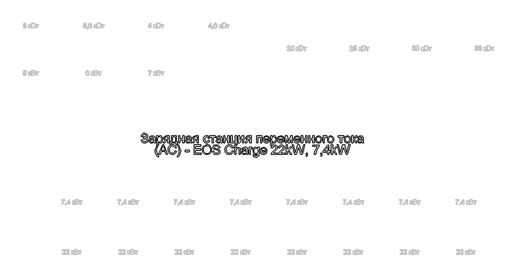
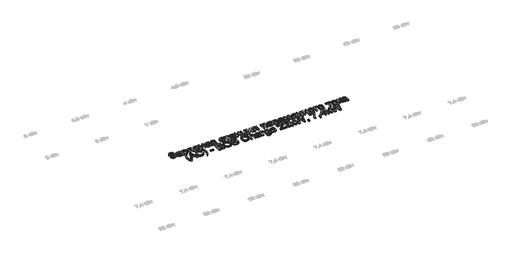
# One storey, part 3 of 26: 1 proxy.
"""IFC4 building model written with IfcOpenShell, lengths in millimetres."""

from ifc_helpers import new_model, si_unit, origin, origin_with_axes, place, context, project, spatial, polyline, outline, extrude, element, save

model = new_model("IFC4")

# Units and contexts
model_context = context("Model", 3, world=origin())
ifc_project = project(units=[si_unit("LENGTHUNIT", "METRE", prefix="MILLI")], contexts=[model_context])

# Site, building, storey
site = spatial("IfcSite", under=ifc_project)
building = spatial("IfcBuilding", under=site)
storey = spatial("IfcBuildingStorey", under=building, Name="Этаж 01", Elevation=0.0)

# Proxy
placement = place(None, origin())
element("IfcBuildingElementProxy", 1, Name="150 мм Arial", ObjectType="150 мм Arial", at=placement, inside=storey, context=model_context, shape_type="SweptSolid", body=[
    extrude(outline(polyline([(2748.1193826, -21088.8906652), (2766.9549407, -21084.1817757), (2778.5248295, -21104.5808323), (2789.4555233, -21112.2373764), (2803.4488347, -21114.7895577), (2817.626087, -21112.8719728), (2828.4464162, -21107.1192181), (2835.3028169, -21098.6533337), (2837.5882838, -21088.5963596), (2835.0912848, -21078.061139), (2827.6002876, -21069.9263484), (2815.8050712, -21064.7254167), (2800.3954141, -21062.9917728), (2790.4993884, -21062.9917728), (2790.4993884, -21044.1562146), (2811.81815, -21042.6295043), (2824.8595668, -21034.830406), (2830.5249495, -21020.5749787), (2828.6395543, -21011.7044241), (2822.9833686, -21004.0754712), (2814.1082155, -20998.8193572), (2802.5659179, -20997.0673192), (2783.3440836, -21002.4567905), (2772.344412, -21016.749006), (2769.3093855, -21030.029546), (2750.4738273, -21025.3206565), (2756.3254503, -21004.7192647), (2766.9273496, -20990.0039849), (2782.2795251, -20981.174817), (2802.3819769, -20978.2317611), (2821.7739565, -20981.2897802), (2836.6869729, -20990.4638374), (2846.192124, -21003.7305819), (2849.3605076, -21019.0666626), (2844.4308889, -21037.7090827), (2829.6420327, -21051.6242191), (2840.1174725, -21056.4480718), (2848.7351083, -21064.5920595), (2854.5016585, -21075.3572063), (2856.423842, -21088.0445366), (2852.735825, -21105.8822149), (2841.6717739, -21120.5469109), (2824.5192759, -21130.3555646), (2802.5659179, -21133.6251159), (2783.4636453, -21130.8292127), (2768.0217985, -21122.4415032), (2756.2403776, -21108.4619874), (2748.1193826, -21088.8906652)])), origin_with_axes(), (0.0, 0.0, 1.0), 20.0),
    extrude(outline(polyline([(2950.6016327, -21117.1440025), (2932.3362917, -21129.9095077), (2912.1579642, -21133.6251159), (2896.4172134, -21131.3902327), (2884.8059379, -21124.6855834), (2877.6460346, -21114.5044492), (2875.2594001, -21101.8401115), (2878.8646437, -21086.9408907), (2888.337605, -21076.12516), (2901.5261746, -21069.9447425), (2917.823347, -21067.1120511), (2950.4912681, -21060.637328), (2950.6016327, -21056.4434733), (2949.3048487, -21048.0373697), (2945.4144966, -21042.5375338), (2936.7140874, -21038.4540437), (2924.5923757, -21037.0928803), (2905.5360883, -21040.716518), (2896.449403, -21053.5739937), (2877.6138449, -21051.2195489), (2885.7624311, -21032.8254492), (2902.1699681, -21022.0465067), (2927.0203968, -21018.2573222), (2949.8474746, -21021.6050483), (2962.7417386, -21030.0111519), (2968.5174859, -21042.7950512), (2969.4371909, -21059.2761646), (2969.4371909, -21082.7102477), (2970.3936841, -21115.4333512), (2974.1460804, -21131.2706711), (2955.3105223, -21131.2706711), (2950.6016327, -21117.1440025)]), holes=[polyline([(2950.6016327, -21079.4728862), (2920.2145799, -21085.2486335), (2904.009378, -21088.302054), (2896.6701322, -21093.268461), (2894.0949583, -21100.5157363), (2899.7051587, -21110.7060676), (2916.167878, -21114.7895577), (2935.2241653, -21110.2830033), (2947.511424, -21099.3753021), (2950.4912681, -21084.8071751), (2950.6016327, -21079.4728862)])]), origin_with_axes(), (0.0, 0.0, 1.0), 20.0),
    extrude(outline(polyline([(2995.3360833, -21173.6506769), (2995.3360833, -21020.6117669), (3014.1716415, -21020.6117669), (3014.1716415, -21039.0794431), (3027.1946641, -21023.4628524), (3044.7794235, -21018.2573222), (3057.5173376, -21020.078338), (3068.654965, -21025.5413857), (3077.7232562, -21034.3153713), (3084.2531616, -21046.069201), (3089.5138741, -21075.0950904), (3088.0285505, -21091.2037233), (3083.5725799, -21105.6109019), (3076.2885164, -21117.5854609), (3066.3189143, -21126.3962346), (3054.7076388, -21131.8178955), (3042.4985551, -21133.6251159), (3026.1094122, -21128.7874676), (3014.1716415, -21116.5553913), (3014.1716415, -21173.6506769), (2995.3360833, -21173.6506769)]), holes=[polyline([(3014.1716415, -21076.8241358), (3016.208788, -21093.7099194), (3022.3202277, -21105.5189314), (3031.3379351, -21112.4719011), (3042.0938849, -21114.7895577), (3053.0245787, -21112.3891277), (3062.2722124, -21105.1878376), (3068.5767901, -21092.9465642), (3070.6783159, -21075.4261842), (3068.6273738, -21058.6323711), (3062.4745475, -21046.6578122), (3053.4706356, -21039.4841133), (3042.8664371, -21037.0928803), (3032.2208519, -21039.6358646), (3022.8720507, -21047.2648175), (3016.3467438, -21059.7406156), (3014.1716415, -21076.8241358)])]), origin_with_axes(), (0.0, 0.0, 1.0), 20.0),
    extrude(outline(polyline([(3195.4638887, -21020.6117669), (3195.4638887, -21131.2706711), (3176.6283306, -21131.2706711), (3176.6283306, -21088.8906652), (3166.3644229, -21088.8906652), (3152.3849071, -21091.2818982), (3139.2515198, -21107.3583414), (3124.2419344, -21131.2706711), (3102.4633203, -21131.2706711), (3121.3724549, -21101.0307711), (3129.7233762, -21090.1782522), (3137.4121099, -21085.3589981), (3124.53624, -21081.4134637), (3115.486343, -21073.917868), (3110.1336599, -21063.948266), (3108.3494323, -21052.5807123), (3110.7866505, -21039.6864484), (3118.0983051, -21029.477723), (3130.0268788, -21022.828256), (3146.3148542, -21020.6117669), (3195.4638887, -21020.6117669)]), holes=[polyline([(3176.6283306, -21039.4473251), (3151.7962959, -21039.4473251), (3138.9710098, -21040.5371755), (3131.6915448, -21043.8067267), (3127.1849904, -21054.0154521), (3128.8450579, -21061.1937495), (3133.8252604, -21066.173952), (3157.351314, -21070.0551071), (3176.6283306, -21070.0551071), (3176.6283306, -21039.4473251)])]), origin_with_axes(), (0.0, 0.0, 1.0), 20.0),
    extrude(outline(polyline([(3240.1983393, -21020.6117669), (3310.8316824, -21020.6117669), (3310.8316824, -21112.4351129), (3324.958351, -21112.4351129), (3324.958351, -21161.8784531), (3306.1227929, -21161.8784531), (3306.1227929, -21131.2706711), (3228.4261155, -21131.2706711), (3228.4261155, -21161.8784531), (3209.5905573, -21161.8784531), (3209.5905573, -21112.4351129), (3221.3627812, -21112.4351129), (3229.9206361, -21096.9702736), (3235.9125141, -21076.5114361), (3240.1983393, -21020.6117669)]), holes=[polyline([(3256.6794527, -21039.4473251), (3252.2648688, -21082.3607598), (3242.5527841, -21112.4351129), (3291.9961242, -21112.4351129), (3291.9961242, -21039.4473251), (3256.6794527, -21039.4473251)])]), origin_with_axes(), (0.0, 0.0, 1.0), 20.0),
    extrude(outline(polyline([(3346.1483539, -21020.6117669), (3364.9839121, -21020.6117669), (3364.9839121, -21062.9917728), (3414.4272522, -21062.9917728), (3414.4272522, -21020.6117669), (3433.2628104, -21020.6117669), (3433.2628104, -21131.2706711), (3414.4272522, -21131.2706711), (3414.4272522, -21081.8273309), (3364.9839121, -21081.8273309), (3364.9839121, -21131.2706711), (3346.1483539, -21131.2706711), (3346.1483539, -21020.6117669)])), origin_with_axes(), (0.0, 0.0, 1.0), 20.0),
    extrude(outline(polyline([(3532.1494907, -21117.1440025), (3513.8841496, -21129.9095077), (3493.7058222, -21133.6251159), (3477.9650713, -21131.3902327), (3466.3537959, -21124.6855834), (3459.1938925, -21114.5044492), (3456.8072581, -21101.8401115), (3460.4125016, -21086.9408907), (3469.885463, -21076.12516), (3483.0740325, -21069.9447425), (3499.3712049, -21067.1120511), (3532.0391261, -21060.637328), (3532.1494907, -21056.4434733), (3530.8527067, -21048.0373697), (3526.9623546, -21042.5375338), (3518.2619454, -21038.4540437), (3506.1402336, -21037.0928803), (3487.0839463, -21040.716518), (3477.997261, -21053.5739937), (3459.1617029, -21051.2195489), (3467.310289, -21032.8254492), (3483.717826, -21022.0465067), (3508.5682548, -21018.2573222), (3531.3953326, -21021.6050483), (3544.2895965, -21030.0111519), (3550.0653439, -21042.7950512), (3550.9850489, -21059.2761646), (3550.9850489, -21082.7102477), (3551.941542, -21115.4333512), (3555.6939384, -21131.2706711), (3536.8583802, -21131.2706711), (3532.1494907, -21117.1440025)]), holes=[polyline([(3532.1494907, -21079.4728862), (3501.7624379, -21085.2486335), (3485.557236, -21088.302054), (3478.2179902, -21093.268461), (3475.6428162, -21100.5157363), (3481.2530167, -21110.7060676), (3497.7157359, -21114.7895577), (3516.7720233, -21110.2830033), (3529.0592819, -21099.3753021), (3532.0391261, -21084.8071751), (3532.1494907, -21079.4728862)])]), origin_with_axes(), (0.0, 0.0, 1.0), 20.0),
    extrude(outline(polyline([(3661.643953, -21020.6117669), (3661.643953, -21131.2706711), (3642.8083948, -21131.2706711), (3642.8083948, -21088.8906652), (3632.5444872, -21088.8906652), (3618.5649714, -21091.2818982), (3605.4315841, -21107.3583414), (3590.4219987, -21131.2706711), (3568.6433846, -21131.2706711), (3587.5525192, -21101.0307711), (3595.9034405, -21090.1782522), (3603.5921742, -21085.3589981), (3590.7163043, -21081.4134637), (3581.6664072, -21073.917868), (3576.3137242, -21063.948266), (3574.5294965, -21052.5807123), (3576.9667148, -21039.6864484), (3584.2783694, -21029.477723), (3596.2069431, -21022.828256), (3612.4949184, -21020.6117669), (3661.643953, -21020.6117669)]), holes=[polyline([(3642.8083948, -21039.4473251), (3617.9763602, -21039.4473251), (3605.1510741, -21040.5371755), (3597.8716091, -21043.8067267), (3593.3650547, -21054.0154521), (3595.0251222, -21061.1937495), (3600.0053247, -21066.173952), (3623.5313783, -21070.0551071), (3642.8083948, -21070.0551071), (3642.8083948, -21039.4473251)])]), origin_with_axes(), (0.0, 0.0, 1.0), 20.0),
    extrude(outline(polyline([(3819.3917525, -21091.24511), (3838.2273107, -21093.5995548), (3832.9757952, -21110.3519811), (3823.1073607, -21123.0117203), (3809.5509092, -21130.971767), (3793.2353427, -21133.6251159), (3773.1995695, -21129.9233033), (3757.532395, -21118.8178655), (3747.4202387, -21100.7962463), (3744.0495199, -21076.3458892), (3745.4888582, -21059.5842658), (3749.8068731, -21045.0575255), (3757.0725425, -21033.3266884), (3767.3548443, -21024.9527745), (3779.6558985, -21019.9311852), (3792.9778253, -21018.2573222), (3808.8933201, -21020.5565846), (3821.6174386, -21027.454372), (3830.7455106, -21038.5828024), (3835.8728659, -21053.5739937), (3817.0373078, -21055.9284385), (3808.3001104, -21041.820164), (3793.1249781, -21037.0928803), (3780.9526826, -21039.4197339), (3771.2911817, -21046.4002948), (3764.986604, -21058.4116419), (3762.8850781, -21075.8308544), (3764.9406187, -21093.4845917), (3771.1072407, -21105.5373255), (3780.5939976, -21112.4764997), (3792.6099433, -21114.7895577), (3802.3634147, -21113.3456209), (3810.3602495, -21109.0138104), (3816.1773836, -21101.6837616), (3819.3917525, -21091.24511)])), origin_with_axes(), (0.0, 0.0, 1.0), 20.0),
    extrude(outline(polyline([(3845.290645, -21020.6117669), (3934.7595462, -21020.6117669), (3934.7595462, -21039.4473251), (3899.4428747, -21039.4473251), (3899.4428747, -21131.2706711), (3880.6073165, -21131.2706711), (3880.6073165, -21039.4473251), (3845.290645, -21039.4473251), (3845.290645, -21020.6117669)])), origin_with_axes(), (0.0, 0.0, 1.0), 20.0),
    extrude(outline(polyline([(4021.8740027, -21117.1440025), (4003.6086616, -21129.9095077), (3983.4303342, -21133.6251159), (3967.6895833, -21131.3902327), (3956.0783078, -21124.6855834), (3948.9184045, -21114.5044492), (3946.5317701, -21101.8401115), (3950.1370136, -21086.9408907), (3959.609975, -21076.12516), (3972.7985445, -21069.9447425), (3989.0957169, -21067.1120511), (4021.7636381, -21060.637328), (4021.8740027, -21056.4434733), (4020.5772186, -21048.0373697), (4016.6868665, -21042.5375338), (4007.9864574, -21038.4540437), (3995.8647456, -21037.0928803), (3976.8084583, -21040.716518), (3967.721773, -21053.5739937), (3948.8862148, -21051.2195489), (3957.034801, -21032.8254492), (3973.442338, -21022.0465067), (3998.2927668, -21018.2573222), (4021.1198446, -21021.6050483), (4034.0141085, -21030.0111519), (4039.7898558, -21042.7950512), (4040.7095608, -21059.2761646), (4040.7095608, -21082.7102477), (4041.666054, -21115.4333512), (4045.4184504, -21131.2706711), (4026.5828922, -21131.2706711), (4021.8740027, -21117.1440025)]), holes=[polyline([(4021.8740027, -21079.4728862), (3991.4869499, -21085.2486335), (3975.281748, -21088.302054), (3967.9425022, -21093.268461), (3965.3673282, -21100.5157363), (3970.9775286, -21110.7060676), (3987.4402479, -21114.7895577), (4006.4965353, -21110.2830033), (4018.7837939, -21099.3753021), (4021.7636381, -21084.8071751), (4021.8740027, -21079.4728862)])]), origin_with_axes(), (0.0, 0.0, 1.0), 20.0),
    extrude(outline(polyline([(4066.6084533, -21020.6117669), (4085.4440114, -21020.6117669), (4085.4440114, -21062.9917728), (4134.8873516, -21062.9917728), (4134.8873516, -21020.6117669), (4153.7229097, -21020.6117669), (4153.7229097, -21131.2706711), (4134.8873516, -21131.2706711), (4134.8873516, -21081.8273309), (4085.4440114, -21081.8273309), (4085.4440114, -21131.2706711), (4066.6084533, -21131.2706711), (4066.6084533, -21020.6117669)])), origin_with_axes(), (0.0, 0.0, 1.0), 20.0),
    extrude(outline(polyline([(4181.976247, -21020.6117669), (4200.8118051, -21020.6117669), (4200.8118051, -21112.4351129), (4254.9640348, -21112.4351129), (4254.9640348, -21020.6117669), (4273.799593, -21020.6117669), (4273.799593, -21112.4351129), (4285.5718168, -21112.4351129), (4285.5718168, -21161.8784531), (4266.7362587, -21161.8784531), (4266.7362587, -21131.2706711), (4181.976247, -21131.2706711), (4181.976247, -21020.6117669)])), origin_with_axes(), (0.0, 0.0, 1.0), 20.0),
    extrude(outline(polyline([(4302.0529302, -21020.6117669), (4320.8884884, -21020.6117669), (4320.8884884, -21105.0038966), (4367.1680433, -21020.6117669), (4391.5218314, -21020.6117669), (4391.5218314, -21131.2706711), (4372.6862733, -21131.2706711), (4372.6862733, -21047.3935762), (4326.7010239, -21131.2706711), (4302.0529302, -21131.2706711), (4302.0529302, -21020.6117669)])), origin_with_axes(), (0.0, 0.0, 1.0), 20.0),
    extrude(outline(polyline([(4504.5351803, -21020.6117669), (4504.5351803, -21131.2706711), (4485.6996222, -21131.2706711), (4485.6996222, -21088.8906652), (4475.4357145, -21088.8906652), (4461.4561987, -21091.2818982), (4448.3228115, -21107.3583414), (4433.3132261, -21131.2706711), (4411.534612, -21131.2706711), (4430.4437465, -21101.0307711), (4438.7946678, -21090.1782522), (4446.4834015, -21085.3589981), (4433.6075317, -21081.4134637), (4424.5576346, -21073.917868), (4419.2049516, -21063.948266), (4417.4207239, -21052.5807123), (4419.8579421, -21039.6864484), (4427.1695968, -21029.477723), (4439.0981705, -21022.828256), (4455.3861458, -21020.6117669), (4504.5351803, -21020.6117669)]), holes=[polyline([(4485.6996222, -21039.4473251), (4460.8675875, -21039.4473251), (4448.0423015, -21040.5371755), (4440.7628365, -21043.8067267), (4436.256282, -21054.0154521), (4437.9163495, -21061.1937495), (4442.8965521, -21066.173952), (4466.4226056, -21070.0551071), (4485.6996222, -21070.0551071), (4485.6996222, -21039.4473251)])]), origin_with_axes(), (0.0, 0.0, 1.0), 20.0),
    extrude(outline(polyline([(4591.6496368, -21020.6117669), (4676.4096485, -21020.6117669), (4676.4096485, -21131.2706711), (4657.5740903, -21131.2706711), (4657.5740903, -21039.4473251), (4610.485195, -21039.4473251), (4610.485195, -21131.2706711), (4591.6496368, -21131.2706711), (4591.6496368, -21020.6117669)])), origin_with_axes(), (0.0, 0.0, 1.0), 20.0),
    extrude(outline(polyline([(4782.1389339, -21098.3084443), (4800.6066101, -21100.6628891), (4793.9525445, -21114.5780256), (4783.3345504, -21124.979889), (4768.9917511, -21131.4638091), (4751.1632699, -21133.6251159), (4729.0627591, -21129.8957121), (4712.0574138, -21118.7075009), (4701.214092, -21100.7870493), (4697.5996514, -21076.860924), (4701.2508802, -21052.1300569), (4712.2045666, -21033.6347896), (4728.9799856, -21022.101689), (4750.0964121, -21018.2573222), (4770.5552496, -21022.092492), (4786.9030057, -21033.5980014), (4797.6221674, -21052.0564805), (4801.1952213, -21076.7505594), (4801.0848567, -21081.8273309), (4716.4352096, -21081.8273309), (4719.6955638, -21095.9264084), (4727.2693343, -21106.2914836), (4738.2000281, -21112.6650392), (4751.5311519, -21114.7895577), (4769.9988281, -21110.8532203), (4782.1389339, -21098.3084443)]), holes=[polyline([(4716.4352096, -21062.9917728), (4782.3596631, -21062.9917728), (4779.8120803, -21053.0405648), (4774.8180822, -21045.9220482), (4763.8368046, -21039.3001723), (4750.0228357, -21037.0928803), (4737.3263084, -21038.8541154), (4726.8278759, -21044.1378205), (4719.5300169, -21052.3737787), (4716.4352096, -21062.9917728)])]), origin_with_axes(), (0.0, 0.0, 1.0), 20.0),
    extrude(outline(polyline([(4820.0307794, -21173.6506769), (4820.0307794, -21020.6117669), (4838.8663376, -21020.6117669), (4838.8663376, -21039.0794431), (4851.8893602, -21023.4628524), (4869.4741196, -21018.2573222), (4882.2120336, -21020.078338), (4893.3496611, -21025.5413857), (4902.4179522, -21034.3153713), (4908.9478576, -21046.069201), (4914.2085702, -21075.0950904), (4912.7232466, -21091.2037233), (4908.267276, -21105.6109019), (4900.9832125, -21117.5854609), (4891.0136104, -21126.3962346), (4879.4023349, -21131.8178955), (4867.1932512, -21133.6251159), (4850.8041083, -21128.7874676), (4838.8663376, -21116.5553913), (4838.8663376, -21173.6506769), (4820.0307794, -21173.6506769)]), holes=[polyline([(4838.8663376, -21076.8241358), (4840.9034841, -21093.7099194), (4847.0149238, -21105.5189314), (4856.0326312, -21112.4719011), (4866.788581, -21114.7895577), (4877.7192748, -21112.3891277), (4886.9669084, -21105.1878376), (4893.2714861, -21092.9465642), (4895.373012, -21075.4261842), (4893.3220699, -21058.6323711), (4887.1692435, -21046.6578122), (4878.1653317, -21039.4841133), (4867.5611332, -21037.0928803), (4856.915548, -21039.6358646), (4847.5667468, -21047.2648175), (4841.0414399, -21059.7406156), (4838.8663376, -21076.8241358)])]), origin_with_axes(), (0.0, 0.0, 1.0), 20.0),
    extrude(outline(polyline([(5012.8745213, -21098.3084443), (5031.3421974, -21100.6628891), (5024.6881319, -21114.5780256), (5014.0701378, -21124.979889), (4999.7273385, -21131.4638091), (4981.8988573, -21133.6251159), (4959.7983464, -21129.8957121), (4942.7930012, -21118.7075009), (4931.9496794, -21100.7870493), (4928.3352388, -21076.860924), (4931.9864676, -21052.1300569), (4942.940154, -21033.6347896), (4959.715573, -21022.101689), (4980.8319995, -21018.2573222), (5001.290837, -21022.092492), (5017.6385931, -21033.5980014), (5028.3577548, -21052.0564805), (5031.9308086, -21076.7505594), (5031.820444, -21081.8273309), (4947.1707969, -21081.8273309), (4950.4311511, -21095.9264084), (4958.0049217, -21106.2914836), (4968.9356155, -21112.6650392), (4982.2667393, -21114.7895577), (5000.7344154, -21110.8532203), (5012.8745213, -21098.3084443)]), holes=[polyline([(4947.1707969, -21062.9917728), (5013.0952505, -21062.9917728), (5010.5476677, -21053.0405648), (5005.5536696, -21045.9220482), (4994.572392, -21039.3001723), (4980.7584231, -21037.0928803), (4968.0618957, -21038.8541154), (4957.5634633, -21044.1378205), (4950.2656042, -21052.3737787), (4947.1707969, -21062.9917728)])]), origin_with_axes(), (0.0, 0.0, 1.0), 20.0),
    extrude(outline(polyline([(5050.7663668, -21020.6117669), (5083.1767706, -21020.6117669), (5108.155958, -21109.1977514), (5135.0849201, -21020.6117669), (5166.1341605, -21020.6117669), (5166.1341605, -21131.2706711), (5147.2986023, -21131.2706711), (5147.2986023, -21042.1696518), (5120.2224875, -21131.2706711), (5095.5008174, -21131.2706711), (5069.6019249, -21037.9022207), (5069.6019249, -21131.2706711), (5050.7663668, -21131.2706711), (5050.7663668, -21020.6117669)])), origin_with_axes(), (0.0, 0.0, 1.0), 20.0),
    extrude(outline(polyline([(5271.8634459, -21098.3084443), (5290.331122, -21100.6628891), (5283.6770565, -21114.5780256), (5273.0590624, -21124.979889), (5258.7162631, -21131.4638091), (5240.8877819, -21133.6251159), (5218.787271, -21129.8957121), (5201.7819258, -21118.7075009), (5190.938604, -21100.7870493), (5187.3241634, -21076.860924), (5190.9753922, -21052.1300569), (5201.9290786, -21033.6347896), (5218.7044976, -21022.101689), (5239.8209241, -21018.2573222), (5260.2797616, -21022.092492), (5276.6275177, -21033.5980014), (5287.3466794, -21052.0564805), (5290.9197332, -21076.7505594), (5290.8093686, -21081.8273309), (5206.1597215, -21081.8273309), (5209.4200757, -21095.9264084), (5216.9938463, -21106.2914836), (5227.9245401, -21112.6650392), (5241.2556639, -21114.7895577), (5259.72334, -21110.8532203), (5271.8634459, -21098.3084443)]), holes=[polyline([(5206.1597215, -21062.9917728), (5272.0841751, -21062.9917728), (5269.5365923, -21053.0405648), (5264.5425942, -21045.9220482), (5253.5613166, -21039.3001723), (5239.7473477, -21037.0928803), (5227.0508204, -21038.8541154), (5216.5523879, -21044.1378205), (5209.2545288, -21052.3737787), (5206.1597215, -21062.9917728)])]), origin_with_axes(), (0.0, 0.0, 1.0), 20.0),
    extrude(outline(polyline([(5309.7552914, -21020.6117669), (5328.5908495, -21020.6117669), (5328.5908495, -21062.9917728), (5378.0341897, -21062.9917728), (5378.0341897, -21020.6117669), (5396.8697478, -21020.6117669), (5396.8697478, -21131.2706711), (5378.0341897, -21131.2706711), (5378.0341897, -21081.8273309), (5328.5908495, -21081.8273309), (5328.5908495, -21131.2706711), (5309.7552914, -21131.2706711), (5309.7552914, -21020.6117669)])), origin_with_axes(), (0.0, 0.0, 1.0), 20.0),
    extrude(outline(polyline([(5425.1230851, -21020.6117669), (5443.9586432, -21020.6117669), (5443.9586432, -21062.9917728), (5493.4019834, -21062.9917728), (5493.4019834, -21020.6117669), (5512.2375415, -21020.6117669), (5512.2375415, -21131.2706711), (5493.4019834, -21131.2706711), (5493.4019834, -21081.8273309), (5443.9586432, -21081.8273309), (5443.9586432, -21131.2706711), (5425.1230851, -21131.2706711), (5425.1230851, -21020.6117669)])), origin_with_axes(), (0.0, 0.0, 1.0), 20.0),
    extrude(outline(polyline([(5535.7819892, -21075.941219), (5539.8562823, -21049.2605773), (5552.0791616, -21030.5077926), (5567.1807175, -21021.3199398), (5585.2621176, -21018.2573222), (5605.0495704, -21021.9867259), (5620.8547006, -21033.1749371), (5631.2151773, -21050.9390389), (5634.6686695, -21074.3961146), (5633.1419593, -21093.4248108), (5628.5618284, -21107.9101644), (5621.0616342, -21118.7580847), (5610.7747339, -21126.8744812), (5598.5564532, -21131.9374572), (5585.2621176, -21133.6251159), (5565.2355415, -21129.9095077), (5549.4488053, -21118.7626832), (5539.1986933, -21100.6261009), (5535.7819892, -21075.941219)]), holes=[polyline([(5554.6175474, -21075.9044308), (5556.7972482, -21092.9511628), (5563.3363507, -21105.0958671), (5573.177194, -21112.3661351), (5585.2621176, -21114.7895577), (5597.2918588, -21112.3523395), (5607.1143081, -21105.0406848), (5613.6534106, -21092.7350321), (5615.8331114, -21075.3158196), (5613.639615, -21058.7657284), (5607.0591258, -21046.7865709), (5597.2228809, -21039.516303), (5585.2621176, -21037.0928803), (5573.177194, -21039.5071059), (5563.3363507, -21046.7497827), (5556.7972482, -21058.8668959), (5554.6175474, -21075.9044308)])]), origin_with_axes(), (0.0, 0.0, 1.0), 20.0),
    extrude(outline(polyline([(5655.8586725, -21020.6117669), (5717.0742365, -21020.6117669), (5717.0742365, -21039.4473251), (5674.6942306, -21039.4473251), (5674.6942306, -21131.2706711), (5655.8586725, -21131.2706711), (5655.8586725, -21020.6117669)])), origin_with_axes(), (0.0, 0.0, 1.0), 20.0),
    extrude(outline(polyline([(5726.4920155, -21075.941219), (5730.5663086, -21049.2605773), (5742.7891879, -21030.5077926), (5757.8907438, -21021.3199398), (5775.9721439, -21018.2573222), (5795.7595967, -21021.9867259), (5811.5647269, -21033.1749371), (5821.9252036, -21050.9390389), (5825.3786958, -21074.3961146), (5823.8519856, -21093.4248108), (5819.2718547, -21107.9101644), (5811.7716605, -21118.7580847), (5801.4847602, -21126.8744812), (5789.2664795, -21131.9374572), (5775.9721439, -21133.6251159), (5755.9455678, -21129.9095077), (5740.1588316, -21118.7626832), (5729.9087196, -21100.6261009), (5726.4920155, -21075.941219)]), holes=[polyline([(5745.3275737, -21075.9044308), (5747.5072745, -21092.9511628), (5754.046377, -21105.0958671), (5763.8872203, -21112.3661351), (5775.9721439, -21114.7895577), (5788.0018851, -21112.3523395), (5797.8243344, -21105.0406848), (5804.3634369, -21092.7350321), (5806.5431377, -21075.3158196), (5804.3496413, -21058.7657284), (5797.7691521, -21046.7865709), (5787.9329072, -21039.516303), (5775.9721439, -21037.0928803), (5763.8872203, -21039.5071059), (5754.046377, -21046.7497827), (5747.5072745, -21058.8668959), (5745.3275737, -21075.9044308)])]), origin_with_axes(), (0.0, 0.0, 1.0), 20.0),
    extrude(outline(polyline([(5896.0120389, -21020.6117669), (5985.4809401, -21020.6117669), (5985.4809401, -21039.4473251), (5950.1642686, -21039.4473251), (5950.1642686, -21131.2706711), (5931.3287104, -21131.2706711), (5931.3287104, -21039.4473251), (5896.0120389, -21039.4473251), (5896.0120389, -21020.6117669)])), origin_with_axes(), (0.0, 0.0, 1.0), 20.0),
    extrude(outline(polyline([(5997.253164, -21075.941219), (6001.3274571, -21049.2605773), (6013.5503364, -21030.5077926), (6028.6518923, -21021.3199398), (6046.7332923, -21018.2573222), (6066.5207451, -21021.9867259), (6082.3258754, -21033.1749371), (6092.6863521, -21050.9390389), (6096.1398443, -21074.3961146), (6094.613134, -21093.4248108), (6090.0330032, -21107.9101644), (6082.532809, -21118.7580847), (6072.2459087, -21126.8744812), (6060.0276279, -21131.9374572), (6046.7332923, -21133.6251159), (6026.7067162, -21129.9095077), (6010.9199801, -21118.7626832), (6000.669868, -21100.6261009), (5997.253164, -21075.941219)]), holes=[polyline([(6016.0887221, -21075.9044308), (6018.268423, -21092.9511628), (6024.8075254, -21105.0958671), (6034.6483688, -21112.3661351), (6046.7332923, -21114.7895577), (6058.7630336, -21112.3523395), (6068.5854828, -21105.0406848), (6075.1245853, -21092.7350321), (6077.3042861, -21075.3158196), (6075.1107897, -21058.7657284), (6068.5303005, -21046.7865709), (6058.6940557, -21039.516303), (6046.7332923, -21037.0928803), (6034.6483688, -21039.5071059), (6024.8075254, -21046.7497827), (6018.268423, -21058.8668959), (6016.0887221, -21075.9044308)])]), origin_with_axes(), (0.0, 0.0, 1.0), 20.0),
    extrude(outline(polyline([(6117.3298472, -21020.6117669), (6136.1654054, -21020.6117669), (6136.1654054, -21067.7006623), (6148.7837578, -21064.316148), (6159.1212419, -21044.597673), (6167.7112864, -21027.5831307), (6175.2896555, -21022.0465067), (6189.0668363, -21020.6117669), (6192.6720798, -21020.6117669), (6192.6720798, -21039.5576897), (6187.5953083, -21039.4473251), (6178.3982584, -21041.4338879), (6171.9235353, -21053.8315111), (6164.3267721, -21067.2408098), (6153.6765883, -21073.8075034), (6165.5591768, -21081.1375522), (6177.221036, -21096.5793989), (6197.3809694, -21131.2706711), (6175.9702372, -21131.2706711), (6156.2149741, -21097.3151629), (6146.2821602, -21082.949371), (6136.1654054, -21079.4728862), (6136.1654054, -21131.2706711), (6117.3298472, -21131.2706711), (6117.3298472, -21020.6117669)])), origin_with_axes(), (0.0, 0.0, 1.0), 20.0),
    extrude(outline(polyline([(6279.7865363, -21117.1440025), (6261.5211952, -21129.9095077), (6241.3428678, -21133.6251159), (6225.6021169, -21131.3902327), (6213.9908414, -21124.6855834), (6206.8309381, -21114.5044492), (6204.4443037, -21101.8401115), (6208.0495472, -21086.9408907), (6217.5225086, -21076.12516), (6230.7110781, -21069.9447425), (6247.0082505, -21067.1120511), (6279.6761717, -21060.637328), (6279.7865363, -21056.4434733), (6278.4897522, -21048.0373697), (6274.5994001, -21042.5375338), (6265.898991, -21038.4540437), (6253.7772792, -21037.0928803), (6234.7209919, -21040.716518), (6225.6343066, -21053.5739937), (6206.7987484, -21051.2195489), (6214.9473346, -21032.8254492), (6231.3548716, -21022.0465067), (6256.2053004, -21018.2573222), (6279.0323782, -21021.6050483), (6291.9266421, -21030.0111519), (6297.7023894, -21042.7950512), (6298.6220944, -21059.2761646), (6298.6220944, -21082.7102477), (6299.5785876, -21115.4333512), (6303.330984, -21131.2706711), (6284.4954258, -21131.2706711), (6279.7865363, -21117.1440025)]), holes=[polyline([(6279.7865363, -21079.4728862), (6249.3994835, -21085.2486335), (6233.1942816, -21088.302054), (6225.8550358, -21093.268461), (6223.2798618, -21100.5157363), (6228.8900622, -21110.7060676), (6245.3527815, -21114.7895577), (6264.4090689, -21110.2830033), (6276.6963275, -21099.3753021), (6279.6761717, -21084.8071751), (6279.7865363, -21079.4728862)])]), origin_with_axes(), (0.0, 0.0, 1.0), 20.0),
    extrude(outline(polyline([(3011.8171967, -21356.6129037), (2997.2214786, -21336.1310736), (2985.0721757, -21312.4302761), (2976.8776042, -21286.6601423), (2974.1460804, -21259.9703036), (2976.1878255, -21236.5638116), (2982.3130607, -21214.1689952), (2994.4715606, -21188.8035316), (3011.8171967, -21163.5484326), (3025.9438653, -21163.5484326), (3008.3223178, -21193.3836624), (2997.7273163, -21222.2991873), (2992.9816386, -21260.0806682), (2995.0417777, -21284.2275226), (3001.2221953, -21308.36518), (3011.5228911, -21332.4936404), (3025.9438653, -21356.6129037), (3011.8171967, -21356.6129037)])), origin_with_axes(), (0.0, 0.0, 1.0), 20.0),
    extrude(outline(polyline([(3029.5858971, -21314.2328978), (3089.7346033, -21163.5484326), (3105.7742583, -21163.5484326), (3165.9229645, -21314.2328978), (3146.0205486, -21314.2328978), (3128.766883, -21267.1440025), (3066.7051904, -21267.1440025), (3049.488313, -21314.2328978), (3029.5858971, -21314.2328978)]), holes=[polyline([(3073.6213719, -21248.3084443), (3121.8874897, -21248.3084443), (3108.3126441, -21211.2627274), (3097.7544308, -21182.3839908), (3088.3734399, -21208.0253658), (3073.6213719, -21248.3084443)])]), origin_with_axes(), (0.0, 0.0, 1.0), 20.0),
    extrude(outline(polyline([(3291.9961242, -21260.6692794), (3310.8316824, -21265.5253217), (3302.1404703, -21287.4740812), (3288.5012453, -21303.5091377), (3270.5853921, -21313.3177914), (3249.0642954, -21316.5873426), (3227.2167034, -21314.1133362), (3209.8664688, -21306.6913169), (3196.5675347, -21294.5788023), (3186.8738441, -21278.0333095), (3180.9555425, -21258.581549), (3178.9827753, -21237.7502311), (3181.2130599, -21215.7784789), (3187.9039137, -21196.804965), (3198.7058488, -21181.4320961), (3213.2693773, -21170.262279), (3230.541437, -21163.4610607), (3249.4689656, -21161.1939879), (3270.1209411, -21164.1278468), (3287.1952642, -21172.9294235), (3300.158506, -21187.0560921), (3308.4772376, -21205.9652267), (3289.6416795, -21210.453387), (3283.1117741, -21196.717593), (3274.1906357, -21187.2952154), (3262.7678997, -21181.8459634), (3248.7332016, -21180.029546), (3232.5555909, -21182.0436999), (3219.2658538, -21188.0861617), (3209.1812886, -21197.5223349), (3202.6191935, -21209.717623), (3197.8183335, -21237.7134429), (3199.2392777, -21255.1142612), (3203.5021103, -21270.1606348), (3210.7677797, -21282.277748), (3221.1972343, -21290.8907853), (3233.7006236, -21296.0365347), (3247.1880972, -21297.7517845), (3262.910454, -21295.4157338), (3276.0116516, -21288.4075818), (3285.9030787, -21276.8009048), (3291.9961242, -21260.6692794)])), origin_with_axes(), (0.0, 0.0, 1.0), 20.0),
    extrude(outline(polyline([(3339.0850196, -21356.6129037), (3324.958351, -21356.6129037), (3339.3793252, -21332.4936404), (3349.6800211, -21308.36518), (3355.8604386, -21284.2275226), (3357.9205778, -21260.0806682), (3353.1749, -21222.6302811), (3342.6902632, -21193.677968), (3324.958351, -21163.5484326), (3339.0850196, -21163.5484326), (3356.4306557, -21188.8035316), (3368.5891556, -21214.1689952), (3374.7143909, -21236.5638116), (3376.7561359, -21259.9703036), (3374.0108165, -21286.6601423), (3365.7748584, -21312.4302761), (3353.6117599, -21336.1310736), (3339.0850196, -21356.6129037)])), origin_with_axes(), (0.0, 0.0, 1.0), 20.0),
    extrude(outline(polyline([(3454.4528133, -21269.4984472), (3454.4528133, -21250.6628891), (3513.3139325, -21250.6628891), (3513.3139325, -21269.4984472), (3454.4528133, -21269.4984472)])), origin_with_axes(), (0.0, 0.0, 1.0), 20.0),
    extrude(outline(polyline([(3595.7194995, -21314.2328978), (3595.7194995, -21163.5484326), (3704.0239588, -21163.5484326), (3704.0239588, -21182.3839908), (3614.5550576, -21182.3839908), (3614.5550576, -21227.1184414), (3699.3150693, -21227.1184414), (3699.3150693, -21245.9539995), (3614.5550576, -21245.9539995), (3614.5550576, -21295.3973397), (3706.3784036, -21295.3973397), (3706.3784036, -21314.2328978), (3595.7194995, -21314.2328978)])), origin_with_axes(), (0.0, 0.0, 1.0), 20.0),
    extrude(outline(polyline([(3727.5684065, -21240.877228), (3732.5899958, -21207.5563163), (3738.8669823, -21193.9377847), (3747.6547635, -21182.3472026), (3770.6565852, -21166.4822915), (3799.4893366, -21161.1939879), (3819.2537968, -21163.6771913), (3836.9765119, -21171.1268017), (3851.6917917, -21183.0185872), (3862.433946, -21198.828316), (3869.0006396, -21217.7926328), (3871.1895375, -21239.1481826), (3868.8856765, -21260.788841), (3861.9740935, -21280.0198723), (3850.8364661, -21295.8571922), (3835.8544718, -21307.3167163), (3818.283508, -21314.269686), (3799.378972, -21316.5873426), (3779.3110092, -21314.0259642), (3761.4871265, -21306.3418291), (3746.8086349, -21294.2293144), (3736.1768452, -21278.3827974), (3729.7205162, -21260.149646), (3727.5684065, -21240.877228)]), holes=[polyline([(3746.4039647, -21241.061169), (3750.1701566, -21264.6332078), (3761.4687324, -21282.5950463), (3778.451085, -21293.9625999), (3799.2686074, -21297.7517845), (3820.3896324, -21293.9258117), (3837.3995762, -21282.4478935), (3848.6153785, -21263.9342321), (3852.3539793, -21239.0010298), (3850.7536926, -21222.3267784), (3845.9528326, -21207.9150012), (3838.0755594, -21196.1289818), (3827.2460331, -21187.3320036), (3814.1816238, -21181.8551604), (3799.5997012, -21180.029546), (3779.3386003, -21183.5474176), (3762.1125259, -21194.1010323), (3750.331105, -21212.8768097), (3746.4039647, -21241.061169)])]), origin_with_axes(), (0.0, 0.0, 1.0), 20.0),
    extrude(outline(polyline([(3890.0250956, -21262.4351129), (3908.8606538, -21262.4351129), (3914.9307067, -21281.2890652), (3929.7563511, -21293.2084418), (3952.3443056, -21297.7517845), (3972.0259923, -21294.3120878), (3984.7363153, -21284.8575205), (3988.9117759, -21272.220774), (3985.7847789, -21260.4669443), (3972.9824855, -21251.9136879), (3945.5568828, -21244.7215949), (3916.0343527, -21235.4325745), (3900.0130918, -21221.4162705), (3894.7339851, -21202.6910769), (3896.3664615, -21191.6592156), (3901.2638906, -21181.3723153), (3909.2975136, -21172.653512), (3920.338572, -21166.3259417), (3948.2608154, -21161.1939879), (3978.0592571, -21166.565065), (3989.481993, -21173.1961379), (3997.9248848, -21182.3472026), (4003.2683708, -21193.4480418), (4005.3928893, -21205.9284385), (3986.5573311, -21205.9284385), (3983.0992404, -21194.6896435), (3975.8887533, -21186.5778455), (3964.6223672, -21181.6666209), (3948.9965794, -21180.029546), (3933.0029097, -21181.6482268), (3922.0308292, -21186.5042691), (3915.6848648, -21193.6503769), (3913.5695433, -21202.1392539), (3915.0686624, -21209.3773322), (3919.5660198, -21215.1990647), (3950.3209546, -21225.7204898), (3983.6510634, -21235.1750571), (3994.3886191, -21242.0084651), (4001.8796162, -21250.4421599), (4006.2804046, -21260.3841708), (4007.7473341, -21271.7425274), (4006.0596754, -21283.3538029), (4000.9966995, -21294.2752996), (3992.7653398, -21303.6746846), (3981.5725301, -21310.7196248), (3968.1126476, -21315.1204132), (3953.0800696, -21316.5873426), (3934.626189, -21315.00545), (3919.4372611, -21310.2597723), (3907.338542, -21302.3319153), (3898.1552877, -21291.203485), (3892.2599787, -21277.6470334), (3890.0250956, -21262.4351129)])), origin_with_axes(), (0.0, 0.0, 1.0), 20.0),
    extrude(outline(polyline([(4200.8118051, -21260.6692794), (4219.6473633, -21265.5253217), (4210.9561511, -21287.4740812), (4197.3169262, -21303.5091377), (4179.401073, -21313.3177914), (4157.8799763, -21316.5873426), (4136.0323843, -21314.1133362), (4118.6821497, -21306.6913169), (4105.3832156, -21294.5788023), (4095.689525, -21278.0333095), (4089.7712234, -21258.581549), (4087.7984562, -21237.7502311), (4090.0287408, -21215.7784789), (4096.7195946, -21196.804965), (4107.5215297, -21181.4320961), (4122.0850582, -21170.262279), (4139.3571178, -21163.4610607), (4158.2846465, -21161.1939879), (4178.936622, -21164.1278468), (4196.0109451, -21172.9294235), (4208.9741869, -21187.0560921), (4217.2929185, -21205.9652267), (4198.4573604, -21210.453387), (4191.9274549, -21196.717593), (4183.0063166, -21187.2952154), (4171.5835806, -21181.8459634), (4157.5488825, -21180.029546), (4141.3712718, -21182.0436999), (4128.0815347, -21188.0861617), (4117.9969695, -21197.5223349), (4111.4348744, -21209.717623), (4106.6340144, -21237.7134429), (4108.0549586, -21255.1142612), (4112.3177912, -21270.1606348), (4119.5834606, -21282.277748), (4130.0129152, -21290.8907853), (4142.5163045, -21296.0365347), (4156.0037781, -21297.7517845), (4171.7261349, -21295.4157338), (4184.8273324, -21288.4075818), (4194.7187596, -21276.8009048), (4200.8118051, -21260.6692794)])), origin_with_axes(), (0.0, 0.0, 1.0), 20.0),
    extrude(outline(polyline([(4243.191811, -21314.2328978), (4243.191811, -21163.5484326), (4262.0273691, -21163.5484326), (4262.0273691, -21218.9514611), (4276.7150578, -21205.652527), (4294.8056549, -21201.2195489), (4315.9588696, -21206.0571972), (4328.7979513, -21219.4297077), (4332.6607122, -21244.188166), (4332.6607122, -21314.2328978), (4313.825154, -21314.2328978), (4313.825154, -21246.1379405), (4312.3260349, -21234.3473226), (4307.8286775, -21226.2723128), (4300.5814022, -21221.6094085), (4290.8325294, -21220.0551071), (4275.3998797, -21224.2489618), (4265.0991838, -21235.6165155), (4262.0273691, -21255.445355), (4262.0273691, -21314.2328978), (4243.191811, -21314.2328978)])), origin_with_axes(), (0.0, 0.0, 1.0), 20.0),
    extrude(outline(polyline([(4429.1929477, -21300.1062292), (4410.9276067, -21312.8717345), (4390.7492792, -21316.5873426), (4375.0085284, -21314.3524595), (4363.3972529, -21307.6478101), (4356.2373496, -21297.4666759), (4353.8507151, -21284.8023382), (4357.4559587, -21269.9031174), (4366.9289201, -21259.0873868), (4380.1174896, -21252.9069693), (4396.414662, -21250.0742779), (4429.0825831, -21243.5995548), (4429.1929477, -21239.4057), (4427.8961637, -21230.9995964), (4424.0058116, -21225.4997606), (4415.3054024, -21221.4162705), (4403.1836907, -21220.0551071), (4384.1274033, -21223.6787447), (4375.040718, -21236.5362205), (4356.2051599, -21234.1817757), (4364.3537461, -21215.7876759), (4380.7612831, -21205.0087335), (4405.6117118, -21201.2195489), (4428.4387896, -21204.5672751), (4441.3330536, -21212.9733787), (4447.1088009, -21225.757278), (4448.0285059, -21242.2383914), (4448.0285059, -21265.6724745), (4448.9849991, -21298.395578), (4452.7373954, -21314.2328978), (4433.9018373, -21314.2328978), (4429.1929477, -21300.1062292)]), holes=[polyline([(4429.1929477, -21262.4351129), (4398.8058949, -21268.2108603), (4382.600693, -21271.2642808), (4375.2614472, -21276.2306877), (4372.6862733, -21283.4779631), (4378.2964737, -21293.6682943), (4394.759193, -21297.7517845), (4413.8154803, -21293.24523), (4426.102739, -21282.3375289), (4429.0825831, -21267.7694019), (4429.1929477, -21262.4351129)])]), origin_with_axes(), (0.0, 0.0, 1.0), 20.0),
    extrude(outline(polyline([(4473.9273983, -21314.2328978), (4473.9273983, -21203.5739937), (4490.4085117, -21203.5739937), (4490.4085117, -21219.9447425), (4502.1071592, -21204.8615807), (4513.879383, -21201.2195489), (4532.7885176, -21207.0320845), (4526.4977355, -21223.917868), (4513.2539836, -21220.0551071), (4502.6037999, -21223.7707152), (4495.8163771, -21234.0714111), (4492.7629565, -21256.0707544), (4492.7629565, -21314.2328978), (4473.9273983, -21314.2328978)])), origin_with_axes(), (0.0, 0.0, 1.0), 20.0),
    extrude(outline(polyline([(4539.8518519, -21323.6506769), (4558.68741, -21326.0051217), (4564.7942512, -21335.9379356), (4583.0779863, -21340.1317903), (4602.3550029, -21335.3861126), (4611.5520527, -21322.0687843), (4612.8396397, -21300.1062292), (4599.5774938, -21310.7012307), (4583.4090801, -21314.2328978), (4563.9895093, -21310.1218166), (4549.5087543, -21297.7885727), (4540.5002439, -21279.7071726), (4537.4974071, -21258.3516228), (4542.8868783, -21229.1601865), (4549.4811631, -21217.3097877), (4558.4850749, -21208.5036124), (4569.5905127, -21203.0405648), (4582.4893751, -21201.2195489), (4599.2923853, -21205.3398273), (4612.8396397, -21217.7006623), (4612.8396397, -21203.5739937), (4631.6751979, -21203.5739937), (4631.6751979, -21299.1129478), (4630.3876109, -21321.172072), (4626.5248499, -21335.6988123), (4619.8707844, -21345.332722), (4610.2092835, -21352.7133545), (4597.7518794, -21357.40385), (4582.7101043, -21358.9673485), (4565.1851258, -21356.764655), (4551.3849524, -21350.1565747), (4542.5327919, -21339.1247133), (4539.8518519, -21323.6506769)]), holes=[polyline([(4556.3329653, -21257.0640358), (4558.3425207, -21274.340694), (4564.3711869, -21286.2186839), (4573.4348795, -21293.1026758), (4584.5495143, -21295.3973397), (4595.5813756, -21293.1164713), (4604.6910535, -21286.2738662), (4610.8024932, -21274.5476276), (4612.8396397, -21257.6158588), (4610.7427124, -21241.2864967), (4604.4519302, -21229.5280685), (4595.2088951, -21222.4233474), (4584.2552087, -21220.0551071), (4573.4992589, -21222.3865592), (4564.4815515, -21229.3809157), (4558.3701118, -21240.9646), (4556.3329653, -21257.0640358)])]), origin_with_axes(), (0.0, 0.0, 1.0), 20.0),
    extrude(outline(polyline([(4737.4044833, -21281.2706711), (4755.8721595, -21283.6251159), (4749.2180939, -21297.5402523), (4738.6000998, -21307.9421157), (4724.2573005, -21314.4260359), (4706.4288193, -21316.5873426), (4684.3283084, -21312.8579389), (4667.3229632, -21301.6697277), (4656.4796414, -21283.749276), (4652.8652008, -21259.8231508), (4656.5164296, -21235.0922836), (4667.470116, -21216.5970163), (4684.245535, -21205.0639158), (4705.3619615, -21201.2195489), (4725.820799, -21205.0547187), (4742.1685551, -21216.5602281), (4752.8877168, -21235.0187072), (4756.4607706, -21259.7127862), (4756.350406, -21264.7895577), (4671.700759, -21264.7895577), (4674.9611131, -21278.8886352), (4682.5348837, -21289.2537104), (4693.4655775, -21295.6272659), (4706.7967013, -21297.7517845), (4725.2643775, -21293.8154471), (4737.4044833, -21281.2706711)]), holes=[polyline([(4671.700759, -21245.9539995), (4737.6252125, -21245.9539995), (4735.0776297, -21236.0027916), (4730.0836316, -21228.884275), (4719.102354, -21222.2623991), (4705.2883851, -21220.0551071), (4692.5918578, -21221.8163421), (4682.0934253, -21227.1000473), (4674.7955662, -21235.3360055), (4671.700759, -21245.9539995)])]), origin_with_axes(), (0.0, 0.0, 1.0), 20.0),
    extrude(outline(polyline([(4925.980794, -21295.3973397), (4925.980794, -21314.2328978), (4827.0941137, -21314.2328978), (4829.1174647, -21301.2466634), (4840.5585947, -21281.252277), (4864.1398306, -21259.4184806), (4896.660599, -21228.0381464), (4902.7582431, -21217.2224157), (4904.7907911, -21206.7009907), (4902.8732062, -21197.269416), (4897.1204515, -21189.428931), (4888.277488, -21184.1452258), (4877.0892769, -21182.3839908), (4865.3400456, -21184.1038391), (4856.2119736, -21189.2633841), (4850.3212632, -21197.4579555), (4848.2841166, -21208.2828832), (4829.4485585, -21205.9284385), (4834.0148938, -21187.7090827), (4843.8879268, -21174.4009515), (4858.5526228, -21166.2615623), (4877.4939471, -21163.5484326), (4896.573227, -21166.565065), (4911.2103319, -21175.6149621), (4920.5223449, -21189.1346254), (4923.6263493, -21205.5605565), (4920.2786231, -21223.4212273), (4909.1501927, -21241.8889035), (4882.1660484, -21267.6958255), (4860.4977989, -21285.8140137), (4851.9997248, -21295.3973397), (4925.980794, -21295.3973397)])), origin_with_axes(), (0.0, 0.0, 1.0), 20.0),
    extrude(outline(polyline([(5041.3485877, -21295.3973397), (5041.3485877, -21314.2328978), (4942.4619074, -21314.2328978), (4944.4852584, -21301.2466634), (4955.9263884, -21281.252277), (4979.5076243, -21259.4184806), (5012.0283927, -21228.0381464), (5018.1260368, -21217.2224157), (5020.1585848, -21206.7009907), (5018.2409999, -21197.269416), (5012.4882452, -21189.428931), (5003.6452817, -21184.1452258), (4992.4570706, -21182.3839908), (4980.7078393, -21184.1038391), (4971.5797673, -21189.2633841), (4965.6890569, -21197.4579555), (4963.6519103, -21208.2828832), (4944.8163522, -21205.9284385), (4949.3826874, -21187.7090827), (4959.2557205, -21174.4009515), (4973.9204165, -21166.2615623), (4992.8617407, -21163.5484326), (5011.9410207, -21166.565065), (5026.5781256, -21175.6149621), (5035.8901386, -21189.1346254), (5038.9941429, -21205.5605565), (5035.6464168, -21223.4212273), (5024.5179864, -21241.8889035), (4997.5338421, -21267.6958255), (4975.8655926, -21285.8140137), (4967.3675185, -21295.3973397), (5041.3485877, -21295.3973397)])), origin_with_axes(), (0.0, 0.0, 1.0), 20.0),
    extrude(outline(polyline([(5064.8930354, -21314.2328978), (5064.8930354, -21163.5484326), (5083.7285936, -21163.5484326), (5083.7285936, -21244.5192598), (5125.9614466, -21203.5739937), (5152.0074919, -21203.5739937), (5109.259604, -21245.0342946), (5154.3619366, -21314.2328978), (5132.3625933, -21314.2328978), (5095.7583348, -21258.1308936), (5083.7285936, -21269.7927528), (5083.7285936, -21314.2328978), (5064.8930354, -21314.2328978)])), origin_with_axes(), (0.0, 0.0, 1.0), 20.0),
    extrude(outline(polyline([(5200.163245, -21314.2328978), (5159.0708262, -21163.5484326), (5178.4949955, -21163.5484326), (5202.3337488, -21262.5822657), (5209.6913887, -21293.1532595), (5217.5640634, -21266.1139329), (5247.4360814, -21163.5484326), (5275.4319012, -21163.5484326), (5297.136939, -21237.8973839), (5313.2869585, -21293.1532595), (5320.4238693, -21263.4651825), (5344.4833517, -21163.5484326), (5363.9075211, -21163.5484326), (5322.778314, -21314.2328978), (5302.6551689, -21314.2328978), (5266.529157, -21197.9821874), (5261.4891736, -21181.7585914), (5255.8237909, -21201.2931253), (5222.8983523, -21314.2328978), (5200.163245, -21314.2328978)])), origin_with_axes(), (0.0, 0.0, 1.0), 20.0),
    extrude(outline(polyline([(5385.097524, -21314.2328978), (5385.097524, -21295.3973397), (5403.9330822, -21295.3973397), (5403.9330822, -21314.2328978), (5400.5485678, -21333.4915203), (5389.8064135, -21344.8406798), (5385.097524, -21337.7773455), (5392.0137055, -21329.6471534), (5394.4785149, -21314.2328978), (5385.097524, -21314.2328978)])), origin_with_axes(), (0.0, 0.0, 1.0), 20.0),
    extrude(outline(polyline([(5493.4019834, -21184.7384355), (5493.4019834, -21165.9028774), (5592.2886637, -21165.9028774), (5592.2886637, -21181.133192), (5564.2376616, -21221.6553938), (5551.9274103, -21247.1174264), (5542.7717471, -21273.2876318), (5535.7819892, -21314.2328978), (5516.9464311, -21314.2328978), (5524.4328297, -21271.7425274), (5533.1470344, -21247.2829733), (5544.9790391, -21223.7155329), (5573.4531055, -21184.7384355), (5493.4019834, -21184.7384355)])), origin_with_axes(), (0.0, 0.0, 1.0), 20.0),
    extrude(outline(polyline([(5618.1875561, -21314.2328978), (5618.1875561, -21295.3973397), (5637.0231143, -21295.3973397), (5637.0231143, -21314.2328978), (5633.6385999, -21333.4915203), (5622.8964457, -21344.8406798), (5618.1875561, -21337.7773455), (5625.1037377, -21329.6471534), (5627.568547, -21314.2328978), (5618.1875561, -21314.2328978)])), origin_with_axes(), (0.0, 0.0, 1.0), 20.0),
    extrude(outline(polyline([(5728.8464603, -21314.2328978), (5728.8464603, -21278.9162263), (5660.567562, -21278.9162263), (5660.567562, -21260.0806682), (5733.5553498, -21165.9028774), (5747.6820184, -21165.9028774), (5747.6820184, -21260.0806682), (5766.5175766, -21260.0806682), (5766.5175766, -21278.9162263), (5747.6820184, -21278.9162263), (5747.6820184, -21314.2328978), (5728.8464603, -21314.2328978)]), holes=[polyline([(5728.8464603, -21260.0806682), (5728.8464603, -21201.8817365), (5683.7441277, -21260.0806682), (5728.8464603, -21260.0806682)])]), origin_with_axes(), (0.0, 0.0, 1.0), 20.0),
    extrude(outline(polyline([(5787.7075795, -21314.2328978), (5787.7075795, -21163.5484326), (5806.5431377, -21163.5484326), (5806.5431377, -21244.5192598), (5848.7759907, -21203.5739937), (5874.822036, -21203.5739937), (5832.0741481, -21245.0342946), (5877.1764808, -21314.2328978), (5855.1771374, -21314.2328978), (5818.5728789, -21258.1308936), (5806.5431377, -21269.7927528), (5806.5431377, -21314.2328978), (5787.7075795, -21314.2328978)])), origin_with_axes(), (0.0, 0.0, 1.0), 20.0),
    extrude(outline(polyline([(5922.9777892, -21314.2328978), (5881.8853703, -21163.5484326), (5901.3095396, -21163.5484326), (5925.1482929, -21262.5822657), (5932.5059328, -21293.1532595), (5940.3786075, -21266.1139329), (5970.2506255, -21163.5484326), (5998.2464454, -21163.5484326), (6019.9514831, -21237.8973839), (6036.1015027, -21293.1532595), (6043.2384134, -21263.4651825), (6067.2978959, -21163.5484326), (6086.7220652, -21163.5484326), (6045.5928581, -21314.2328978), (6025.469713, -21314.2328978), (5989.3437011, -21197.9821874), (5984.3037177, -21181.7585914), (5978.638335, -21201.2931253), (5945.7128965, -21314.2328978), (5922.9777892, -21314.2328978)])), origin_with_axes(), (0.0, 0.0, 1.0), 20.0),
])

save(model, "model.ifc")
